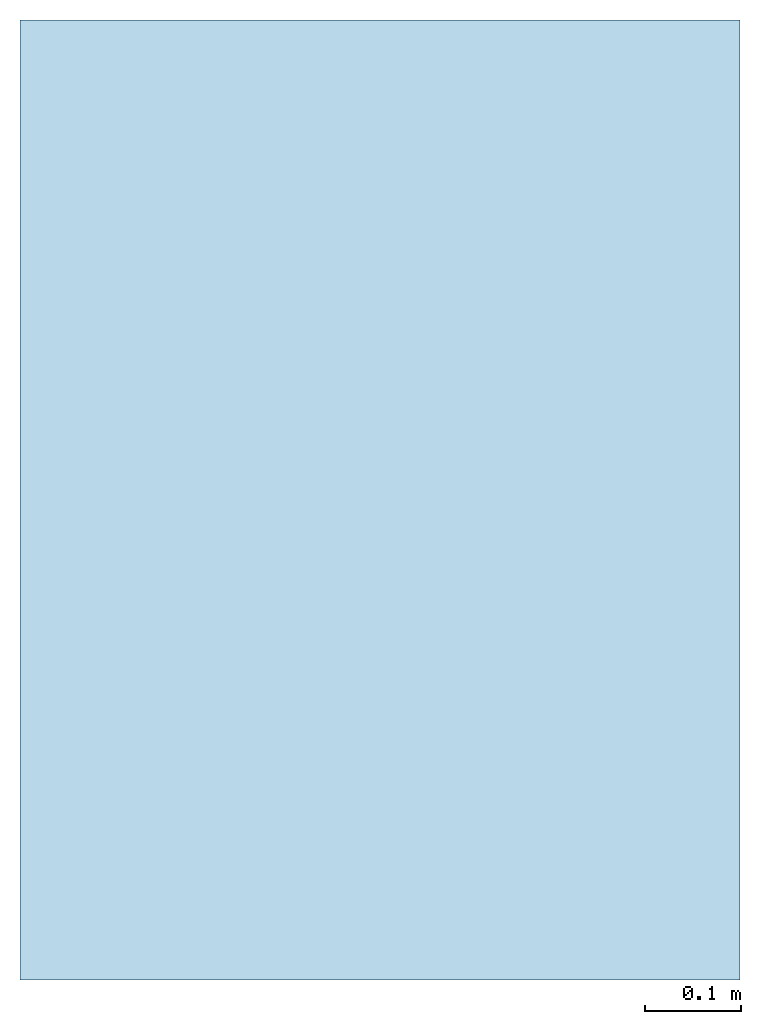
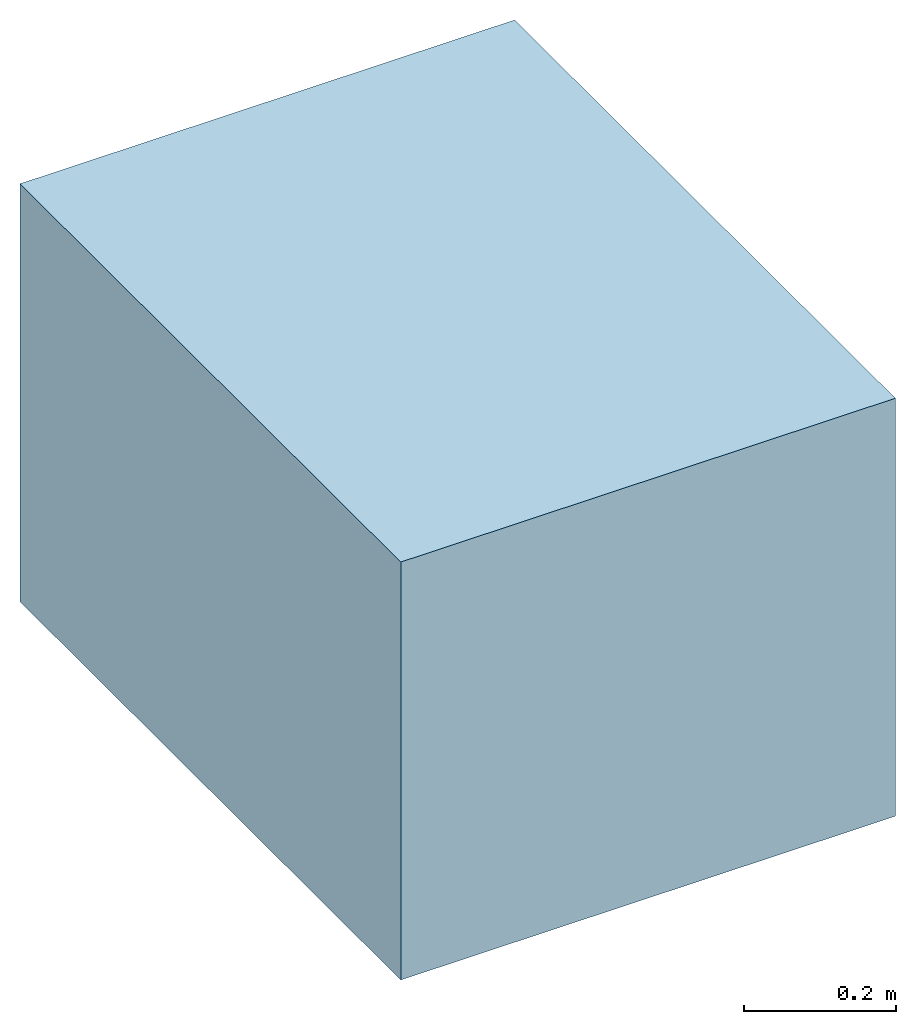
# One storey: 1 slab.
"""IFC4 building model written with IfcOpenShell, lengths in metres."""

from ifc_helpers import new_model, entity, si_unit, converted_unit, direction, frame, frame_2d, origin, place, context, subcontext, project, spatial, rectangle, extrude, material, type_object, element, save


model = new_model("IFC4")

# Units and contexts
model_context = context("Model", 3, precision=1e-05, world=origin(), true_north=direction((6.123031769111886e-17, 1.0)))
body_context = subcontext(model_context, "Body", "Model", "MODEL_VIEW")
ifc_project = project(units=[si_unit("LENGTHUNIT", "METRE"), converted_unit("PLANEANGLEUNIT", "DEGREE", entity("IfcPlaneAngleMeasure", 0.017453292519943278), si_unit("PLANEANGLEUNIT", "RADIAN"), dimensions=[0, 0, 0, 0, 0, 0, 0]), si_unit("AREAUNIT", "SQUARE_METRE")], contexts=[model_context])

# Site, building, storey
site_placement = place(None, origin())
site = spatial("IfcSite", under=ifc_project, at=site_placement, Name="Default", CompositionType="ELEMENT")
building_placement = place(site_placement, origin())
building = spatial("IfcBuilding", under=site, at=building_placement, CompositionType="ELEMENT")
storey_placement = place(building_placement, origin())
storey = spatial("IfcBuildingStorey", under=building, at=storey_placement, Name="Ebene 0", CompositionType="ELEMENT", Elevation=0.0)

# Slab
ifc_material = material(Name="DB_Magerbeton", Category="DB_Beton")
slab_type = type_object("IfcSlabType", Name="DB_BSK_55_Fundament:DB_BSK_55_Fundament", PredefinedType="BASESLAB", material=ifc_material)
slab_placement = place(storey_placement, origin())
element("IfcSlab", 1, at=slab_placement, inside=storey, type_object=slab_type, Name="DB_BSK_55_Fundament:DB_BSK_55_Fundament", ObjectType="DB_BSK_55_Fundament:DB_BSK_55_Fundament", PredefinedType="BASESLAB", context=body_context, shape_type="SweptSolid", body=[
    extrude(rectangle(XDim=0.7500000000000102, YDim=0.9999999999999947, at=frame_2d((-2.581268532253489e-15, -3.3306690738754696e-16), x_axis=(1.0, 0.0))), frame((0.21500000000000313, 0.499999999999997, -1.4702645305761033), z_axis=(0.0, 0.0, 1.0), x_axis=(-1.0, 0.0, 0.0)), (0.0, 0.0, 1.0), 0.11999999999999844),
    extrude(rectangle(XDim=0.7500000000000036, YDim=0.9999999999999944, at=frame_2d((-2.4702462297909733e-15, -3.3306690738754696e-16), x_axis=(1.0, 0.0))), frame((0.214999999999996, 0.4999999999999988, -1.3502645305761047), z_axis=(0.0, 0.0, 1.0), x_axis=(-1.0, 0.0, 0.0)), (0.0, 0.0, 1.0), 0.5500000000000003),
])

save(model, "model.ifc")
